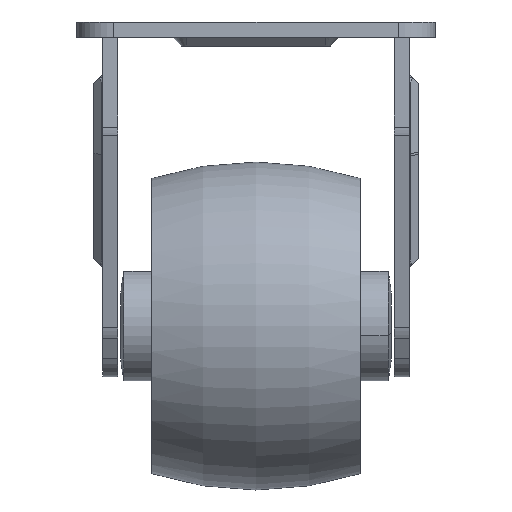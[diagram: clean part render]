
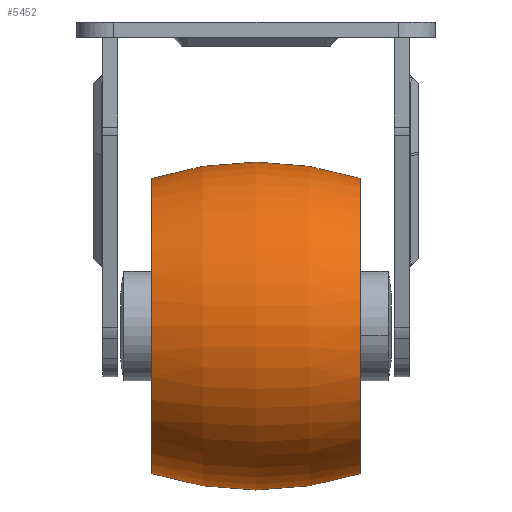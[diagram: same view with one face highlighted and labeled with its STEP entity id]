
A CAD part, left-side view. The second image highlights one B-rep face of the part: STEP entity #5452.
In plain terms, the highlighted toroidal (fillet/blend) face has major radius 40.327 mm and minor radius 77.827 mm.
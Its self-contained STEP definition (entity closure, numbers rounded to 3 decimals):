
#671 = AXIS2_PLACEMENT_3D ( 'NONE', #12851, #10934, #22557 ) ;
#963 = CARTESIAN_POINT ( 'NONE',  ( 73.688, 148.654, 97.861 ) ) ;
#1010 = AXIS2_PLACEMENT_3D ( 'NONE', #963, #10917, #12667 ) ;
#1324 = EDGE_CURVE ( 'NONE', #8424, #20127, #3305, .T. ) ;
#1805 = AXIS2_PLACEMENT_3D ( 'NONE', #7523, #9293, #7352 ) ;
#1961 = DIRECTION ( 'NONE',  ( 0., 0., -1. ) ) ;
#3097 = CARTESIAN_POINT ( 'NONE',  ( 73.688, 124.754, 97.861 ) ) ;
#3305 = CIRCLE ( 'NONE', #1805, 33.739 ) ;
#4011 = CARTESIAN_POINT ( 'NONE',  ( 73.688, 124.754, 131.601 ) ) ;
#4752 = DIRECTION ( 'NONE',  ( 0., 0., 1. ) ) ;
#4806 = CARTESIAN_POINT ( 'NONE',  ( 73.688, 172.554, 131.601 ) ) ;
#5349 = EDGE_CURVE ( 'NONE', #14261, #19817, #11206, .T. ) ;
#5452 = ADVANCED_FACE ( 'NONE', ( #23389 ), #12686, .T. ) ;
#5576 = AXIS2_PLACEMENT_3D ( 'NONE', #10933, #5788, #1961 ) ;
#5788 = DIRECTION ( 'NONE',  ( 1., 0., 0. ) ) ;
#6431 = ORIENTED_EDGE ( 'NONE', *, *, #18731, .T. ) ;
#7352 = DIRECTION ( 'NONE',  ( 0., 0., 1. ) ) ;
#7523 = CARTESIAN_POINT ( 'NONE',  ( 73.688, 172.554, 97.861 ) ) ;
#8358 = ORIENTED_EDGE ( 'NONE', *, *, #16472, .F. ) ;
#8424 = VERTEX_POINT ( 'NONE', #4806 ) ;
#9293 = DIRECTION ( 'NONE',  ( 0., -1., 0. ) ) ;
#9821 = ORIENTED_EDGE ( 'NONE', *, *, #1324, .T. ) ;
#10917 = DIRECTION ( 'NONE',  ( 0., -1., 0. ) ) ;
#10933 = CARTESIAN_POINT ( 'NONE',  ( 73.688, 148.654, 57.535 ) ) ;
#10934 = DIRECTION ( 'NONE',  ( -1., 0., 0. ) ) ;
#11206 = CIRCLE ( 'NONE', #15585, 33.739 ) ;
#11513 = ORIENTED_EDGE ( 'NONE', *, *, #5349, .F. ) ;
#12267 = CARTESIAN_POINT ( 'NONE',  ( 73.688, 172.554, 64.122 ) ) ;
#12667 = DIRECTION ( 'NONE',  ( 0., 0., 1. ) ) ;
#12686 = TOROIDAL_SURFACE ( 'NONE', #1010, -40.327, 77.827 ) ;
#12851 = CARTESIAN_POINT ( 'NONE',  ( 73.688, 148.654, 138.188 ) ) ;
#14261 = VERTEX_POINT ( 'NONE', #4011 ) ;
#15585 = AXIS2_PLACEMENT_3D ( 'NONE', #3097, #16203, #4752 ) ;
#16203 = DIRECTION ( 'NONE',  ( 0., -1., 0. ) ) ;
#16472 = EDGE_CURVE ( 'NONE', #8424, #14261, #22633, .T. ) ;
#17189 = CARTESIAN_POINT ( 'NONE',  ( 73.688, 124.754, 64.122 ) ) ;
#18322 = EDGE_LOOP ( 'NONE', ( #9821, #6431, #11513, #8358 ) ) ;
#18731 = EDGE_CURVE ( 'NONE', #20127, #19817, #20404, .T. ) ;
#19817 = VERTEX_POINT ( 'NONE', #17189 ) ;
#20127 = VERTEX_POINT ( 'NONE', #12267 ) ;
#20404 = CIRCLE ( 'NONE', #671, 77.827 ) ;
#22557 = DIRECTION ( 'NONE',  ( 0., 0., 1. ) ) ;
#22633 = CIRCLE ( 'NONE', #5576, 77.827 ) ;
#23389 = FACE_OUTER_BOUND ( 'NONE', #18322, .T. ) ;
